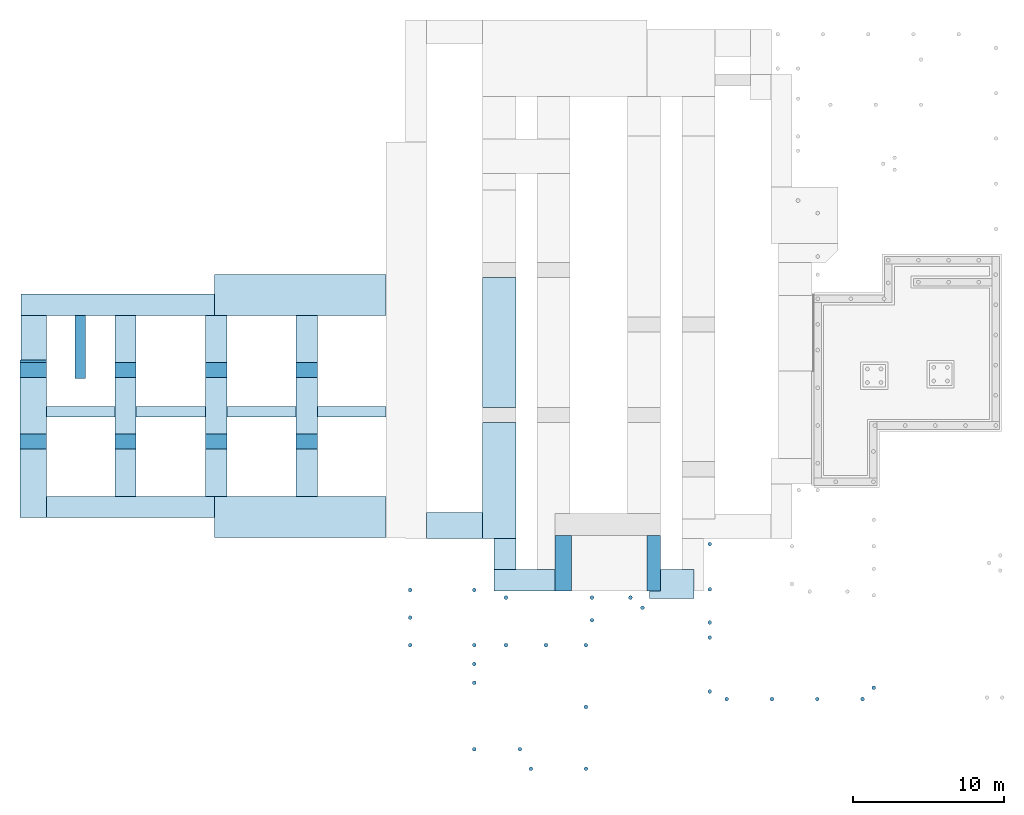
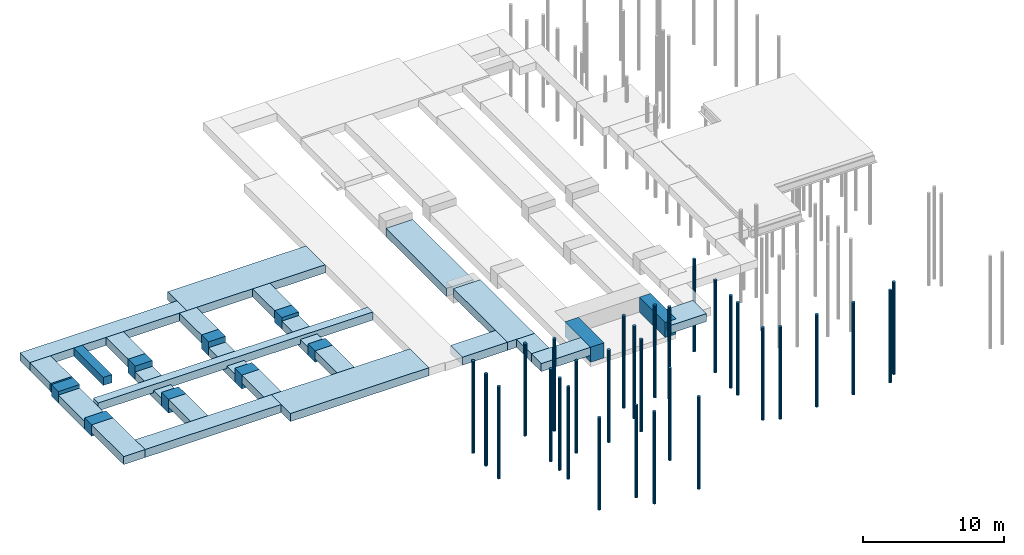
# One storey, part 1 of 4: 65 footings.
"""IFC4 building model written with IfcOpenShell, lengths in metres."""

from ifc_helpers import new_model, entity, si_unit, converted_unit, derived_unit, frame, frame_2d, origin, origin_with_axes, place, context, subcontext, project, spatial, polyline, rectangle, circle, extrude, clip, bounded_halfspace, material, element, save


model = new_model("IFC4")

# Units and contexts
model_context = context("Model", 3, precision=1e-05, world=origin())
body_context = subcontext(model_context, "Body", "Model", "MODEL_VIEW")
ifc_project = project(units=[si_unit("LENGTHUNIT", "METRE"), si_unit("AREAUNIT", "SQUARE_METRE"), si_unit("VOLUMEUNIT", "CUBIC_METRE"), si_unit("MASSUNIT", "GRAM", prefix="KILO"), converted_unit("PLANEANGLEUNIT", "DEGREE", entity("IfcPlaneAngleMeasure", 0.0174532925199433), si_unit("PLANEANGLEUNIT", "RADIAN"), dimensions=[0, 0, 0, 0, 0, 0, 0]), derived_unit("THERMALTRANSMITTANCEUNIT", [(si_unit("POWERUNIT", "WATT"), 1), (si_unit("THERMODYNAMICTEMPERATUREUNIT", "KELVIN"), -1), (si_unit("LENGTHUNIT", "METRE"), -2)]), derived_unit("VOLUMETRICFLOWRATEUNIT", [(si_unit("LENGTHUNIT", "METRE"), 3), (converted_unit("TIMEUNIT", "hour", entity("IfcTimeMeasure", 3600.0), si_unit("TIMEUNIT", "SECOND"), dimensions=[0, 0, 1, 0, 0, 0, 0]), -1), (si_unit("LENGTHUNIT", "METRE"), -1)])], contexts=[model_context])

# Site, building, storey
site_placement = place(None, origin())
site = spatial("IfcSite", under=ifc_project, at=site_placement, Name="3. ASŘ", CompositionType="ELEMENT")
building_placement = place(site_placement, origin())
building = spatial("IfcBuilding", under=site, at=building_placement, Name="Pavilon C", CompositionType="ELEMENT")
storey_placement = place(building_placement, frame((0.0, 0.0, -4.4)))
storey = spatial("IfcBuildingStorey", under=building, at=storey_placement, Name="Základy", CompositionType="ELEMENT", Elevation=-4.4)

# Footings
footing_1_placement = place(storey_placement, frame((34.45, -0.800000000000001, -0.6), z_axis=(0.0, 0.0, 1.0), x_axis=(0.0, -1.0, 0.0)))
element("IfcFooting", 1, at=footing_1_placement, inside=storey, PredefinedType="STRIP_FOOTING", context=body_context, shape_type="SweptSolid", body=[
    extrude(rectangle(XDim=1.10000000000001, YDim=1.3, at=frame_2d((0.550000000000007, 0.65), x_axis=(1.0, 0.0))), frame((0.0, 0.0, 0.0), z_axis=(1.0, 0.0, 0.0), x_axis=(0.0, 1.0, 0.0)), (0.0, 0.0, 1.0), 3.65),
])
footing_2_placement = place(storey_placement, frame((30.4, -0.970000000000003, 0.0), z_axis=(0.0, 0.0, 1.0), x_axis=(0.0, -1.0, 0.0)))
element("IfcFooting", 2, at=footing_2_placement, inside=storey, PredefinedType="STRIP_FOOTING", context=body_context, shape_type="SweptSolid", body=[
    extrude(rectangle(XDim=1.45, YDim=0.7, at=frame_2d((0.725, 0.35), x_axis=(1.0, 0.0))), frame((0.0, 0.0, 0.0), z_axis=(1.0, 0.0, 0.0), x_axis=(0.0, 1.0, 0.0)), (0.0, 0.0, 1.0), 2.08),
])
footing_3_placement = place(storey_placement, frame((30.4, -4.45, 0.0)))
element("IfcFooting", 3, at=footing_3_placement, inside=storey, PredefinedType="STRIP_FOOTING", context=body_context, shape_type="SweptSolid", body=[
    extrude(rectangle(XDim=1.4, YDim=0.7, at=frame_2d((0.7, 0.35), x_axis=(1.0, 0.0))), frame((0.0, 0.0, 0.0), z_axis=(1.0, 0.0, 0.0), x_axis=(0.0, 1.0, 0.0)), (0.0, 0.0, 1.0), 4.04999999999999),
])
footing_4_placement = place(storey_placement, frame((25.95, -0.970000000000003, 0.0)))
element("IfcFooting", 4, at=footing_4_placement, inside=storey, PredefinedType="STRIP_FOOTING", context=body_context, shape_type="SweptSolid", body=[
    extrude(rectangle(XDim=1.695, YDim=0.7, at=frame_2d((0.8475, 0.35), x_axis=(1.0, 0.0))), frame((0.0, 0.0, 0.0), z_axis=(1.0, 0.0, 0.0), x_axis=(0.0, 1.0, 0.0)), (0.0, 0.0, 1.0), 3.70000000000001),
])
footing_5_placement = place(storey_placement, frame((40.7, -4.95000000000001, 0.0), z_axis=(0.0, 0.0, 1.0), x_axis=(1.0, 9.24909866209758e-16, 0.0)))
element("IfcFooting", 5, at=footing_5_placement, inside=storey, PredefinedType="STRIP_FOOTING", context=body_context, shape_type="SweptSolid", body=[
    extrude(rectangle(XDim=1.9, YDim=0.7, at=frame_2d((0.95, 0.35), x_axis=(1.0, 0.0))), frame((0.0, 0.0, 0.0), z_axis=(1.0, 0.0, 0.0), x_axis=(0.0, 1.0, 0.0)), (0.0, 0.0, 1.0), 2.95),
])
footing_6_placement = place(storey_placement, frame((41.45, -4.45, -0.6), z_axis=(0.0, 0.0, 1.0), x_axis=(0.0, 1.0, 0.0)))
element("IfcFooting", 6, at=footing_6_placement, inside=storey, PredefinedType="STRIP_FOOTING", context=body_context, shape_type="SweptSolid", body=[
    extrude(rectangle(XDim=0.9, YDim=1.3, at=frame_2d((0.45, 0.65), x_axis=(1.0, 0.0))), frame((0.0, 0.0, 0.0), z_axis=(1.0, 0.0, 0.0), x_axis=(0.0, 1.0, 0.0)), (0.0, 0.0, 1.0), 3.65),
])
footing_7_placement = place(storey_placement, frame((31.8498372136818, 7.7, -0.6), z_axis=(0.0, 0.0, 1.0), x_axis=(0.0, 1.0, 0.0)))
element("IfcFooting", 7, at=footing_7_placement, inside=storey, PredefinedType="STRIP_FOOTING", context=body_context, shape_type="SweptSolid", body=[
    extrude(rectangle(XDim=2.2, YDim=0.7, at=frame_2d((1.1, 0.35), x_axis=(1.0, 0.0))), frame((0.0, 0.0, 0.0), z_axis=(1.0, 0.0, 0.0), x_axis=(0.0, 1.0, 0.0)), (0.0, 0.0, 1.0), 8.6),
])
footing_8_placement = place(storey_placement, frame((0.750000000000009, 0.400000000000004, 0.0), z_axis=(0.0, 0.0, 1.0), x_axis=(1.0, -2.60001288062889e-16, 0.0)))
element("IfcFooting", 8, at=footing_8_placement, inside=storey, PredefinedType="STRIP_FOOTING", context=body_context, shape_type="SweptSolid", body=[
    extrude(rectangle(XDim=1.4, YDim=0.7, at=frame_2d((0.699999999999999, 0.35), x_axis=(1.0, 0.0))), frame((0.0, 0.0, 0.0), z_axis=(1.0, 0.0, 0.0), x_axis=(0.0, 1.0, 0.0)), (0.0, 0.0, 1.0), 11.15),
])
footing_9_placement = place(storey_placement, frame((12.7, 1.8, 0.0), z_axis=(0.0, 0.0, 1.0), x_axis=(5.80219905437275e-16, 1.0, 0.0)))
element("IfcFooting", 9, at=footing_9_placement, inside=storey, PredefinedType="STRIP_FOOTING", context=body_context, shape_type="SweptSolid", body=[
    extrude(rectangle(XDim=1.4, YDim=0.7, at=frame_2d((0.699999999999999, 0.35), x_axis=(1.0, 0.0))), frame((0.0, 0.0, 0.0), z_axis=(1.0, 0.0, 0.0), x_axis=(0.0, 1.0, 0.0)), (0.0, 0.0, 1.0), 3.135),
])
footing_10_placement = place(storey_placement, frame((18.7, 1.8, 0.0), z_axis=(0.0, 0.0, 1.0), x_axis=(1.16043981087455e-15, 1.0, 0.0)))
element("IfcFooting", 10, at=footing_10_placement, inside=storey, PredefinedType="STRIP_FOOTING", context=body_context, shape_type="SweptSolid", body=[
    extrude(rectangle(XDim=1.4, YDim=0.7, at=frame_2d((0.699999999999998, 0.35), x_axis=(1.0, 0.0))), frame((0.0, 0.0, 0.0), z_axis=(1.0, 0.0, 0.0), x_axis=(0.0, 1.0, 0.0)), (0.0, 0.0, 1.0), 3.135),
])
for number, where, z_axis, x_axis in (
    (11, (17.3, 13.8, 0.0), (0.0, 0.0, 1.0), (0.0, -1.0, 0.0)),
    (12, (11.3, 13.8, 0.0), (0.0, 0.0, 1.0), (0.0, -1.0, 0.0)),
):
    element("IfcFooting", number, at=place(storey_placement, frame(where, z_axis=z_axis, x_axis=x_axis)), inside=storey, PredefinedType="STRIP_FOOTING", context=body_context, shape_type="SweptSolid", body=[
        extrude(rectangle(XDim=1.4, YDim=0.7, at=frame_2d((0.7, 0.35), x_axis=(1.0, 0.0))), frame((0.0, 0.0, 0.0), z_axis=(1.0, 0.0, 0.0), x_axis=(0.0, 1.0, 0.0)), (0.0, 0.0, 1.0), 3.125),
    ])
footing_11_placement = place(storey_placement, frame((11.9, 15.2, 0.0), z_axis=(0.0, 0.0, 1.0), x_axis=(-1.0, 4.24666786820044e-16, 0.0)))
element("IfcFooting", 13, at=footing_11_placement, inside=storey, PredefinedType="STRIP_FOOTING", context=body_context, shape_type="SweptSolid", body=[
    extrude(rectangle(XDim=1.4, YDim=0.7, at=frame_2d((0.700000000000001, 0.35), x_axis=(1.0, 0.0))), frame((0.0, 0.0, 0.0), z_axis=(1.0, 0.0, 0.0), x_axis=(0.0, 1.0, 0.0)), (0.0, 0.0, 1.0), 12.85),
])
for number, where, z_axis, x_axis in (
    (14, (11.9, -0.905000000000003, 0.0), (0.0, 0.0, 1.0), (1.0, -3.00626278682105e-16, 0.0)),
    (15, (11.9, 13.8, 0.0), (0.0, 0.0, 1.0), (1.0, -3.20668030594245e-16, 0.0)),
):
    element("IfcFooting", number, at=place(storey_placement, frame(where, z_axis=z_axis, x_axis=x_axis)), inside=storey, PredefinedType="STRIP_FOOTING", context=body_context, shape_type="SweptSolid", body=[
        extrude(rectangle(XDim=2.705, YDim=0.7, at=frame_2d((1.3525, 0.35), x_axis=(1.0, 0.0))), frame((0.0, 0.0, 0.0), z_axis=(1.0, 0.0, 0.0), x_axis=(0.0, 1.0, 0.0)), (0.0, 0.0, 1.0), 11.345),
    ])
footing_12_placement = place(storey_placement, frame((23.245, 7.74999999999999, 0.0), z_axis=(0.0, 0.0, 1.0), x_axis=(-1.0, 3.23447771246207e-16, 0.0)))
element("IfcFooting", 16, at=footing_12_placement, inside=storey, PredefinedType="STRIP_FOOTING", context=body_context, shape_type="Clipping", body=[
    clip(clip(clip(extrude(rectangle(XDim=0.7, YDim=0.7, at=frame_2d((0.35, 0.35), x_axis=(1.0, 0.0))), frame((0.0, 0.0, 0.0), z_axis=(1.0, 0.0, 0.0), x_axis=(0.0, 1.0, 0.0)), (0.0, 0.0, 1.0), 22.495), bounded_halfspace(frame((17.245, 0.35, 0.2), z_axis=(0.0, 0.0, 1.0), x_axis=(1.0, 3.23447771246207e-16, 0.0)), True, origin_with_axes(), polyline([(16.545, -1.05524835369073e-16), (17.945, 3.47302044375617e-16), (17.945, 0.7), (16.545, 0.7), (16.545, -1.05524835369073e-16)]))), bounded_halfspace(frame((11.245, 0.35, 0.2), z_axis=(0.0, 0.0, 1.0), x_axis=(1.0, 3.23447771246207e-16, 0.0)), True, origin_with_axes(), polyline([(10.545, -2.27222059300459e-16), (11.945, 2.25604820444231e-16), (11.945, 0.7), (10.545, 0.7), (10.545, -2.27222059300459e-16)]))), bounded_halfspace(frame((5.245, 0.35, 0.4), z_axis=(0.0, 0.0, 1.0), x_axis=(1.0, 3.23447771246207e-16, 0.0)), True, origin_with_axes(), polyline([(4.545, -3.48919283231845e-16), (5.945, 1.03907596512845e-16), (5.945, 0.7), (4.545, 0.7), (4.545, -3.48919283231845e-16)]))),
])
footing_13_placement = place(storey_placement, frame((17.3, 9.675, -0.3), z_axis=(0.0, 0.0, 1.0), x_axis=(0.0, -1.0, 0.0)))
element("IfcFooting", 17, at=footing_13_placement, inside=storey, PredefinedType="STRIP_FOOTING", context=body_context, shape_type="SweptSolid", body=[
    extrude(rectangle(XDim=1.4, YDim=0.7, at=frame_2d((0.7, 0.35), x_axis=(1.0, 0.0))), frame((0.0, 0.0, 0.0), z_axis=(1.0, 0.0, 0.0), x_axis=(0.0, 1.0, 0.0)), (0.0, 0.0, 1.0), 3.74),
])
for number, where, z_axis, x_axis in (
    (18, (17.3, 5.935, -0.3), (0.0, 0.0, 1.0), (0.0, -1.0, 0.0)),
    (19, (17.3, 10.675, -0.3), (0.0, 0.0, 1.0), (0.0, -1.0, 0.0)),
):
    element("IfcFooting", number, at=place(storey_placement, frame(where, z_axis=z_axis, x_axis=x_axis)), inside=storey, PredefinedType="STRIP_FOOTING", context=body_context, shape_type="SweptSolid", body=[
        extrude(rectangle(XDim=1.4, YDim=1.0, at=frame_2d((0.7, 0.5), x_axis=(1.0, 0.0))), frame((0.0, 0.0, 0.0), z_axis=(1.0, 0.0, 0.0), x_axis=(0.0, 1.0, 0.0)), (0.0, 0.0, 1.0), 1.0),
    ])
footing_14_placement = place(storey_placement, frame((11.3, 9.675, -0.5), z_axis=(0.0, 0.0, 1.0), x_axis=(0.0, -1.0, 0.0)))
element("IfcFooting", 20, at=footing_14_placement, inside=storey, PredefinedType="STRIP_FOOTING", context=body_context, shape_type="SweptSolid", body=[
    extrude(rectangle(XDim=1.4, YDim=0.7, at=frame_2d((0.7, 0.35), x_axis=(1.0, 0.0))), frame((0.0, 0.0, 0.0), z_axis=(1.0, 0.0, 0.0), x_axis=(0.0, 1.0, 0.0)), (0.0, 0.0, 1.0), 3.74),
])
for number, where, z_axis, x_axis in (
    (21, (11.3, 5.935, -0.5), (0.0, 0.0, 1.0), (0.0, -1.0, 0.0)),
    (22, (11.3, 10.675, -0.5), (0.0, 0.0, 1.0), (0.0, -1.0, 0.0)),
):
    element("IfcFooting", number, at=place(storey_placement, frame(where, z_axis=z_axis, x_axis=x_axis)), inside=storey, PredefinedType="STRIP_FOOTING", context=body_context, shape_type="SweptSolid", body=[
        extrude(rectangle(XDim=1.4, YDim=1.2, at=frame_2d((0.7, 0.6), x_axis=(1.0, 0.0))), frame((0.0, 0.0, 0.0), z_axis=(1.0, 0.0, 0.0), x_axis=(0.0, 1.0, 0.0)), (0.0, 0.0, 1.0), 1.0),
    ])
footing_15_placement = place(storey_placement, frame((5.3, 9.675, -0.5), z_axis=(0.0, 0.0, 1.0), x_axis=(0.0, -1.0, 0.0)))
element("IfcFooting", 23, at=footing_15_placement, inside=storey, PredefinedType="STRIP_FOOTING", context=body_context, shape_type="SweptSolid", body=[
    extrude(rectangle(XDim=1.4, YDim=0.7, at=frame_2d((0.7, 0.35), x_axis=(1.0, 0.0))), frame((0.0, 0.0, 0.0), z_axis=(1.0, 0.0, 0.0), x_axis=(0.0, 1.0, 0.0)), (0.0, 0.0, 1.0), 3.74),
])
footing_16_placement = place(storey_placement, frame((6.7, 1.8, 0.0), z_axis=(0.0, 0.0, 1.0), x_axis=(2.90109952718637e-16, 1.0, 0.0)))
element("IfcFooting", 24, at=footing_16_placement, inside=storey, PredefinedType="STRIP_FOOTING", context=body_context, shape_type="SweptSolid", body=[
    extrude(rectangle(XDim=1.4, YDim=0.7, at=frame_2d((0.699999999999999, 0.35), x_axis=(1.0, 0.0))), frame((0.0, 0.0, 0.0), z_axis=(1.0, 0.0, 0.0), x_axis=(0.0, 1.0, 0.0)), (0.0, 0.0, 1.0), 3.135),
])
for number, where, z_axis, x_axis in (
    (25, (5.3, 5.935, -0.5), (0.0, 0.0, 1.0), (0.0, -1.0, 0.0)),
    (26, (5.3, 10.675, -0.5), (0.0, 0.0, 1.0), (0.0, -1.0, 0.0)),
):
    element("IfcFooting", number, at=place(storey_placement, frame(where, z_axis=z_axis, x_axis=x_axis)), inside=storey, PredefinedType="STRIP_FOOTING", context=body_context, shape_type="SweptSolid", body=[
        extrude(rectangle(XDim=1.4, YDim=1.2, at=frame_2d((0.7, 0.6), x_axis=(1.0, 0.0))), frame((0.0, 0.0, 0.0), z_axis=(1.0, 0.0, 0.0), x_axis=(0.0, 1.0, 0.0)), (0.0, 0.0, 1.0), 1.0),
    ])
footing_17_placement = place(storey_placement, frame((5.3, 13.8, 0.0), z_axis=(0.0, 0.0, 1.0), x_axis=(0.0, -1.0, 0.0)))
element("IfcFooting", 27, at=footing_17_placement, inside=storey, PredefinedType="STRIP_FOOTING", context=body_context, shape_type="SweptSolid", body=[
    extrude(rectangle(XDim=1.4, YDim=0.7, at=frame_2d((0.7, 0.35), x_axis=(1.0, 0.0))), frame((0.0, 0.0, 0.0), z_axis=(1.0, 0.0, 0.0), x_axis=(0.0, 1.0, 0.0)), (0.0, 0.0, 1.0), 3.125),
])
footing_18_placement = place(storey_placement, frame((-0.999999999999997, 9.675, -0.3), z_axis=(0.0, 0.0, 1.0), x_axis=(-1.51987750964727e-16, -1.0, 0.0)))
element("IfcFooting", 28, at=footing_18_placement, inside=storey, PredefinedType="STRIP_FOOTING", context=body_context, shape_type="SweptSolid", body=[
    extrude(rectangle(XDim=1.75000000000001, YDim=0.7, at=frame_2d((0.875000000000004, 0.35), x_axis=(1.0, 0.0))), frame((0.0, 0.0, 0.0), z_axis=(1.0, 0.0, 0.0), x_axis=(0.0, 1.0, 0.0)), (0.0, 0.0, 1.0), 3.74),
])
footing_19_placement = place(storey_placement, frame((-0.999999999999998, 4.935, 0.0), z_axis=(0.0, 0.0, 1.0), x_axis=(-1.50412574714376e-16, -1.0, 0.0)))
element("IfcFooting", 29, at=footing_19_placement, inside=storey, PredefinedType="STRIP_FOOTING", context=body_context, shape_type="SweptSolid", body=[
    extrude(rectangle(XDim=1.75000000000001, YDim=0.7, at=frame_2d((0.875000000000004, 0.35), x_axis=(1.0, 0.0))), frame((0.0, 0.0, 0.0), z_axis=(1.0, 0.0, 0.0), x_axis=(0.0, 1.0, 0.0)), (0.0, 0.0, 1.0), 4.535),
])
for number, where, z_axis, x_axis in (
    (30, (-0.999999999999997, 5.935, -0.3), (0.0, 0.0, 1.0), (-1.13686837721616e-16, -1.0, 0.0)),
    (31, (-0.999999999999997, 10.675, -0.3), (0.0, 0.0, 1.0), (-1.13686837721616e-16, -1.0, 0.0)),
):
    element("IfcFooting", number, at=place(storey_placement, frame(where, z_axis=z_axis, x_axis=x_axis)), inside=storey, PredefinedType="STRIP_FOOTING", context=body_context, shape_type="SweptSolid", body=[
        extrude(rectangle(XDim=1.75000000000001, YDim=1.0, at=frame_2d((0.875000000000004, 0.5), x_axis=(1.0, 0.0))), frame((0.0, 0.0, 0.0), z_axis=(1.0, 0.0, 0.0), x_axis=(0.0, 1.0, 0.0)), (0.0, 0.0, 1.0), 1.0),
    ])
footing_20_placement = place(storey_placement, frame((-0.999999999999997, 10.825, 0.0), z_axis=(0.0, 0.0, 1.0), x_axis=(0.0, -1.0, 0.0)))
element("IfcFooting", 32, at=footing_20_placement, inside=storey, PredefinedType="STRIP_FOOTING", context=body_context, shape_type="SweptSolid", body=[
    extrude(rectangle(XDim=1.75000000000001, YDim=0.7, at=frame_2d((0.875000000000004, 0.35), x_axis=(1.0, 0.0))), frame((0.0, 0.0, 0.0), z_axis=(1.0, 0.0, 0.0), x_axis=(0.0, 1.0, 0.0)), (0.0, 0.0, 1.0), 0.15),
])
footing_21_placement = place(storey_placement, frame((-0.949999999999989, 13.8, 0.0), z_axis=(0.0, 0.0, 1.0), x_axis=(1.14642189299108e-16, -1.0, 0.0)))
element("IfcFooting", 33, at=footing_21_placement, inside=storey, PredefinedType="STRIP_FOOTING", context=body_context, shape_type="SweptSolid", body=[
    extrude(rectangle(XDim=1.7, YDim=0.7, at=frame_2d((0.85, 0.35), x_axis=(1.0, 0.0))), frame((0.0, 0.0, 0.0), z_axis=(1.0, 0.0, 0.0), x_axis=(0.0, 1.0, 0.0)), (0.0, 0.0, 1.0), 2.975),
])
footing_22_placement = place(storey_placement, frame((3.35, 9.6, 0.0), z_axis=(0.0, 0.0, 1.0), x_axis=(0.0, 1.0, 0.0)))
element("IfcFooting", 34, at=footing_22_placement, inside=storey, PredefinedType="STRIP_FOOTING", context=body_context, shape_type="SweptSolid", body=[
    extrude(rectangle(XDim=0.7, YDim=0.7, at=frame_2d((0.35, 0.35), x_axis=(1.0, 0.0))), frame((0.0, 0.0, 0.0), z_axis=(1.0, 0.0, 0.0), x_axis=(0.0, 1.0, 0.0)), (0.0, 0.0, 1.0), 4.2),
])
footing_23_placement = place(storey_placement, frame((31.85, -0.970000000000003, 0.0), z_axis=(0.0, 0.0, 1.0), x_axis=(0.0, 1.0, 0.0)))
element("IfcFooting", 35, at=footing_23_placement, inside=storey, PredefinedType="STRIP_FOOTING", context=body_context, shape_type="SweptSolid", body=[
    extrude(rectangle(XDim=2.2, YDim=0.7, at=frame_2d((1.1, 0.35), x_axis=(1.0, 0.0))), frame((0.0, 0.0, 0.0), z_axis=(1.0, 0.0, 0.0), x_axis=(0.0, 1.0, 0.0)), (0.0, 0.0, 1.0), 7.67),
])
ifc_material_1 = material(Name="ZELEZOBETONOVÁ KCE")
footing_24_placement = place(storey_placement, frame((44.5805159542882, -1.47948404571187, -5.1)))
element("IfcFooting", 36, at=footing_24_placement, inside=storey, material=ifc_material_1, Name="MIKROPILOTA MP1", PredefinedType="PAD_FOOTING", context=body_context, shape_type="SweptSolid", body=[
    extrude(circle(Radius=0.124999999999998, at=frame_2d((0.124999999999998, 0.124999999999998), x_axis=(1.0, 0.0))), frame((-0.000515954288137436, -0.000515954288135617, 0.0), z_axis=(0.0, 0.0, 1.0), x_axis=(1.0, 0.0, 0.0)), (0.0, 0.0, 1.0), 8.0),
])
ifc_material_2 = material(Name="ZELEZOBETONOVÁ KCE")
footing_25_placement = place(storey_placement, frame((44.5805159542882, -4.47948404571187, -5.1)))
element("IfcFooting", 37, at=footing_25_placement, inside=storey, material=ifc_material_2, Name="MIKROPILOTA MP1", PredefinedType="PAD_FOOTING", context=body_context, shape_type="SweptSolid", body=[
    extrude(circle(Radius=0.124999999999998, at=frame_2d((0.124999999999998, 0.124999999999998), x_axis=(1.0, 0.0))), frame((-0.000515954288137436, -0.000515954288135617, 0.0), z_axis=(0.0, 0.0, 1.0), x_axis=(1.0, 0.0, 0.0)), (0.0, 0.0, 1.0), 8.0),
])
ifc_material_3 = material(Name="ZELEZOBETONOVÁ KCE")
footing_26_placement = place(storey_placement, frame((44.5805159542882, -6.67448404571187, -5.1)))
element("IfcFooting", 38, at=footing_26_placement, inside=storey, material=ifc_material_3, Name="MIKROPILOTA MP1", PredefinedType="PAD_FOOTING", context=body_context, shape_type="SweptSolid", body=[
    extrude(circle(Radius=0.124999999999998, at=frame_2d((0.124999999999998, 0.124999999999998), x_axis=(1.0, 0.0))), frame((-0.000515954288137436, -0.000515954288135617, 0.0), z_axis=(0.0, 0.0, 1.0), x_axis=(1.0, 0.0, 0.0)), (0.0, 0.0, 1.0), 8.0),
])
ifc_material_4 = material(Name="ZELEZOBETONOVÁ KCE")
footing_27_placement = place(storey_placement, frame((44.5805159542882, -7.67448404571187, -5.1)))
element("IfcFooting", 39, at=footing_27_placement, inside=storey, material=ifc_material_4, Name="MIKROPILOTA MP1", PredefinedType="PAD_FOOTING", context=body_context, shape_type="SweptSolid", body=[
    extrude(circle(Radius=0.124999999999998, at=frame_2d((0.124999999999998, 0.124999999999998), x_axis=(1.0, 0.0))), frame((-0.000515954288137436, -0.000515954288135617, 0.0), z_axis=(0.0, 0.0, 1.0), x_axis=(1.0, 0.0, 0.0)), (0.0, 0.0, 1.0), 8.0),
])
ifc_material_5 = material(Name="ZELEZOBETONOVÁ KCE")
footing_28_placement = place(storey_placement, frame((44.5805159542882, -11.2494840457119, -5.1)))
element("IfcFooting", 40, at=footing_28_placement, inside=storey, material=ifc_material_5, Name="MIKROPILOTA MP1", PredefinedType="PAD_FOOTING", context=body_context, shape_type="SweptSolid", body=[
    extrude(circle(Radius=0.124999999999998, at=frame_2d((0.124999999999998, 0.124999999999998), x_axis=(1.0, 0.0))), frame((-0.000515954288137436, -0.000515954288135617, 0.0), z_axis=(0.0, 0.0, 1.0), x_axis=(1.0, 0.0, 0.0)), (0.0, 0.0, 1.0), 8.0),
])
ifc_material_6 = material(Name="ZELEZOBETONOVÁ KCE")
footing_29_placement = place(storey_placement, frame((45.7005159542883, -11.7494840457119, -5.1)))
element("IfcFooting", 41, at=footing_29_placement, inside=storey, material=ifc_material_6, Name="MIKROPILOTA MP1", PredefinedType="PAD_FOOTING", context=body_context, shape_type="SweptSolid", body=[
    extrude(circle(Radius=0.124999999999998, at=frame_2d((0.124999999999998, 0.124999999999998), x_axis=(1.0, 0.0))), frame((-0.000515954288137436, -0.000515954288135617, 0.0), z_axis=(0.0, 0.0, 1.0), x_axis=(1.0, 0.0, 0.0)), (0.0, 0.0, 1.0), 8.0),
])
ifc_material_7 = material(Name="ZELEZOBETONOVÁ KCE")
footing_30_placement = place(storey_placement, frame((48.7005159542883, -11.7494840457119, -5.1)))
element("IfcFooting", 42, at=footing_30_placement, inside=storey, material=ifc_material_7, Name="MIKROPILOTA MP1", PredefinedType="PAD_FOOTING", context=body_context, shape_type="SweptSolid", body=[
    extrude(circle(Radius=0.124999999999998, at=frame_2d((0.124999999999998, 0.124999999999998), x_axis=(1.0, 0.0))), frame((-0.000515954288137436, -0.000515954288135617, 0.0), z_axis=(0.0, 0.0, 1.0), x_axis=(1.0, 0.0, 0.0)), (0.0, 0.0, 1.0), 8.0),
])
ifc_material_8 = material(Name="ZELEZOBETONOVÁ KCE")
footing_31_placement = place(storey_placement, frame((51.7005159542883, -11.7494840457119, -5.1)))
element("IfcFooting", 43, at=footing_31_placement, inside=storey, material=ifc_material_8, Name="MIKROPILOTA MP1", PredefinedType="PAD_FOOTING", context=body_context, shape_type="SweptSolid", body=[
    extrude(circle(Radius=0.124999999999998, at=frame_2d((0.124999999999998, 0.124999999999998), x_axis=(1.0, 0.0))), frame((-0.000515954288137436, -0.000515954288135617, 0.0), z_axis=(0.0, 0.0, 1.0), x_axis=(1.0, 0.0, 0.0)), (0.0, 0.0, 1.0), 8.0),
])
ifc_material_9 = material(Name="ZELEZOBETONOVÁ KCE")
footing_32_placement = place(storey_placement, frame((54.7005159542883, -11.7494840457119, -5.1)))
element("IfcFooting", 44, at=footing_32_placement, inside=storey, material=ifc_material_9, Name="MIKROPILOTA MP1", PredefinedType="PAD_FOOTING", context=body_context, shape_type="SweptSolid", body=[
    extrude(circle(Radius=0.124999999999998, at=frame_2d((0.124999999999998, 0.124999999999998), x_axis=(1.0, 0.0))), frame((-0.000515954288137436, -0.000515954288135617, 0.0), z_axis=(0.0, 0.0, 1.0), x_axis=(1.0, 0.0, 0.0)), (0.0, 0.0, 1.0), 8.0),
])
ifc_material_10 = material(Name="ZELEZOBETONOVÁ KCE")
footing_33_placement = place(storey_placement, frame((55.4505159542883, -10.9994840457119, -5.1)))
element("IfcFooting", 45, at=footing_33_placement, inside=storey, material=ifc_material_10, Name="MIKROPILOTA MP1", PredefinedType="PAD_FOOTING", context=body_context, shape_type="SweptSolid", body=[
    extrude(circle(Radius=0.124999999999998, at=frame_2d((0.124999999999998, 0.124999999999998), x_axis=(1.0, 0.0))), frame((-0.000515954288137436, -0.000515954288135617, 0.0), z_axis=(0.0, 0.0, 1.0), x_axis=(1.0, 0.0, 0.0)), (0.0, 0.0, 1.0), 8.0),
])
ifc_material_11 = material(Name="ZELEZOBETONOVÁ KCE")
footing_34_placement = place(storey_placement, frame((40.1205159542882, -5.69948404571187, -5.1)))
element("IfcFooting", 46, at=footing_34_placement, inside=storey, material=ifc_material_11, Name="MIKROPILOTA MP1", PredefinedType="PAD_FOOTING", context=body_context, shape_type="SweptSolid", body=[
    extrude(circle(Radius=0.124999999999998, at=frame_2d((0.124999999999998, 0.124999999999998), x_axis=(1.0, 0.0))), frame((-0.000515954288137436, -0.000515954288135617, 0.0), z_axis=(0.0, 0.0, 1.0), x_axis=(1.0, 0.0, 0.0)), (0.0, 0.0, 1.0), 8.0),
])
ifc_material_12 = material(Name="ZELEZOBETONOVÁ KCE")
footing_35_placement = place(storey_placement, frame((39.3255159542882, -5.02448404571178, -5.1)))
element("IfcFooting", 47, at=footing_35_placement, inside=storey, material=ifc_material_12, Name="MIKROPILOTA MP1", PredefinedType="PAD_FOOTING", context=body_context, shape_type="SweptSolid", body=[
    extrude(circle(Radius=0.124999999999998, at=frame_2d((0.124999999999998, 0.124999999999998), x_axis=(1.0, 0.0))), frame((-0.000515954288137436, -0.000515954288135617, 0.0), z_axis=(0.0, 0.0, 1.0), x_axis=(1.0, 0.0, 0.0)), (0.0, 0.0, 1.0), 8.0),
])
ifc_material_13 = material(Name="ZELEZOBETONOVÁ KCE")
footing_36_placement = place(storey_placement, frame((36.7755159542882, -5.02448404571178, -5.1)))
element("IfcFooting", 48, at=footing_36_placement, inside=storey, material=ifc_material_13, Name="MIKROPILOTA MP1", PredefinedType="PAD_FOOTING", context=body_context, shape_type="SweptSolid", body=[
    extrude(circle(Radius=0.124999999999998, at=frame_2d((0.124999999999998, 0.124999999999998), x_axis=(1.0, 0.0))), frame((-0.000515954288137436, -0.000515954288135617, 0.0), z_axis=(0.0, 0.0, 1.0), x_axis=(1.0, 0.0, 0.0)), (0.0, 0.0, 1.0), 8.0),
])
ifc_material_14 = material(Name="ZELEZOBETONOVÁ KCE")
footing_37_placement = place(storey_placement, frame((36.7755159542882, -6.52448404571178, -5.1)))
element("IfcFooting", 49, at=footing_37_placement, inside=storey, material=ifc_material_14, Name="MIKROPILOTA MP1", PredefinedType="PAD_FOOTING", context=body_context, shape_type="SweptSolid", body=[
    extrude(circle(Radius=0.124999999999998, at=frame_2d((0.124999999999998, 0.124999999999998), x_axis=(1.0, 0.0))), frame((-0.000515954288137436, -0.000515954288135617, 0.0), z_axis=(0.0, 0.0, 1.0), x_axis=(1.0, 0.0, 0.0)), (0.0, 0.0, 1.0), 8.0),
])
ifc_material_15 = material(Name="ZELEZOBETONOVÁ KCE")
footing_38_placement = place(storey_placement, frame((36.3755159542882, -8.17448404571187, -5.1)))
element("IfcFooting", 50, at=footing_38_placement, inside=storey, material=ifc_material_15, Name="MIKROPILOTA MP1", PredefinedType="PAD_FOOTING", context=body_context, shape_type="SweptSolid", body=[
    extrude(circle(Radius=0.124999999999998, at=frame_2d((0.124999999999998, 0.124999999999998), x_axis=(1.0, 0.0))), frame((-0.000515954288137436, -0.000515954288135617, 0.0), z_axis=(0.0, 0.0, 1.0), x_axis=(1.0, 0.0, 0.0)), (0.0, 0.0, 1.0), 8.0),
])
ifc_material_16 = material(Name="ZELEZOBETONOVÁ KCE")
footing_39_placement = place(storey_placement, frame((33.7255159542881, -8.17448404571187, -5.1)))
element("IfcFooting", 51, at=footing_39_placement, inside=storey, material=ifc_material_16, Name="MIKROPILOTA MP1", PredefinedType="PAD_FOOTING", context=body_context, shape_type="SweptSolid", body=[
    extrude(circle(Radius=0.124999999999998, at=frame_2d((0.124999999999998, 0.124999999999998), x_axis=(1.0, 0.0))), frame((-0.000515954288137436, -0.000515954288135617, 0.0), z_axis=(0.0, 0.0, 1.0), x_axis=(1.0, 0.0, 0.0)), (0.0, 0.0, 1.0), 8.0),
])
ifc_material_17 = material(Name="ZELEZOBETONOVÁ KCE")
footing_40_placement = place(storey_placement, frame((36.3755159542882, -12.2719840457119, -5.1)))
element("IfcFooting", 52, at=footing_40_placement, inside=storey, material=ifc_material_17, Name="MIKROPILOTA MP1", PredefinedType="PAD_FOOTING", context=body_context, shape_type="SweptSolid", body=[
    extrude(circle(Radius=0.124999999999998, at=frame_2d((0.124999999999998, 0.124999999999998), x_axis=(1.0, 0.0))), frame((-0.000515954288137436, -0.000515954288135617, 0.0), z_axis=(0.0, 0.0, 1.0), x_axis=(1.0, 0.0, 0.0)), (0.0, 0.0, 1.0), 8.0),
])
ifc_material_18 = material(Name="ZELEZOBETONOVÁ KCE")
footing_41_placement = place(storey_placement, frame((36.3755159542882, -16.3694840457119, -5.1)))
element("IfcFooting", 53, at=footing_41_placement, inside=storey, material=ifc_material_18, Name="MIKROPILOTA MP1", PredefinedType="PAD_FOOTING", context=body_context, shape_type="SweptSolid", body=[
    extrude(circle(Radius=0.124999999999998, at=frame_2d((0.124999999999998, 0.124999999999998), x_axis=(1.0, 0.0))), frame((-0.000515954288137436, -0.000515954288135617, 0.0), z_axis=(0.0, 0.0, 1.0), x_axis=(1.0, 0.0, 0.0)), (0.0, 0.0, 1.0), 8.0),
])
ifc_material_19 = material(Name="ZELEZOBETONOVÁ KCE")
footing_42_placement = place(storey_placement, frame((32.7305159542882, -16.3694840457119, -5.1)))
element("IfcFooting", 54, at=footing_42_placement, inside=storey, material=ifc_material_19, Name="MIKROPILOTA MP1", PredefinedType="PAD_FOOTING", context=body_context, shape_type="SweptSolid", body=[
    extrude(circle(Radius=0.124999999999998, at=frame_2d((0.124999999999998, 0.124999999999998), x_axis=(1.0, 0.0))), frame((-0.000515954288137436, -0.000515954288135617, 0.0), z_axis=(0.0, 0.0, 1.0), x_axis=(1.0, 0.0, 0.0)), (0.0, 0.0, 1.0), 8.0),
])
ifc_material_20 = material(Name="ZELEZOBETONOVÁ KCE")
footing_43_placement = place(storey_placement, frame((32.0005159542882, -15.0694840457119, -5.1)))
element("IfcFooting", 55, at=footing_43_placement, inside=storey, material=ifc_material_20, Name="MIKROPILOTA MP1", PredefinedType="PAD_FOOTING", context=body_context, shape_type="SweptSolid", body=[
    extrude(circle(Radius=0.124999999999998, at=frame_2d((0.124999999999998, 0.124999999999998), x_axis=(1.0, 0.0))), frame((-0.000515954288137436, -0.000515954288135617, 0.0), z_axis=(0.0, 0.0, 1.0), x_axis=(1.0, 0.0, 0.0)), (0.0, 0.0, 1.0), 8.0),
])
ifc_material_21 = material(Name="ZELEZOBETONOVÁ KCE")
footing_44_placement = place(storey_placement, frame((28.9755159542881, -15.0694840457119, -5.1)))
element("IfcFooting", 56, at=footing_44_placement, inside=storey, material=ifc_material_21, Name="MIKROPILOTA MP1", PredefinedType="PAD_FOOTING", context=body_context, shape_type="SweptSolid", body=[
    extrude(circle(Radius=0.124999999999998, at=frame_2d((0.124999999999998, 0.124999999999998), x_axis=(1.0, 0.0))), frame((-0.000515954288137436, -0.000515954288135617, 0.0), z_axis=(0.0, 0.0, 1.0), x_axis=(1.0, 0.0, 0.0)), (0.0, 0.0, 1.0), 8.0),
])
ifc_material_22 = material(Name="ZELEZOBETONOVÁ KCE")
footing_45_placement = place(storey_placement, frame((28.9755159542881, -10.6744840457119, -5.1)))
element("IfcFooting", 57, at=footing_45_placement, inside=storey, material=ifc_material_22, Name="MIKROPILOTA MP1", PredefinedType="PAD_FOOTING", context=body_context, shape_type="SweptSolid", body=[
    extrude(circle(Radius=0.124999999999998, at=frame_2d((0.124999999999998, 0.124999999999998), x_axis=(1.0, 0.0))), frame((-0.000515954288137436, -0.000515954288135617, 0.0), z_axis=(0.0, 0.0, 1.0), x_axis=(1.0, 0.0, 0.0)), (0.0, 0.0, 1.0), 8.0),
])
ifc_material_23 = material(Name="ZELEZOBETONOVÁ KCE")
footing_46_placement = place(storey_placement, frame((28.9755159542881, -9.42448404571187, -5.1)))
element("IfcFooting", 58, at=footing_46_placement, inside=storey, material=ifc_material_23, Name="MIKROPILOTA MP1", PredefinedType="PAD_FOOTING", context=body_context, shape_type="SweptSolid", body=[
    extrude(circle(Radius=0.124999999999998, at=frame_2d((0.124999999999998, 0.124999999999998), x_axis=(1.0, 0.0))), frame((-0.000515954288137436, -0.000515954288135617, 0.0), z_axis=(0.0, 0.0, 1.0), x_axis=(1.0, 0.0, 0.0)), (0.0, 0.0, 1.0), 8.0),
])
ifc_material_24 = material(Name="ZELEZOBETONOVÁ KCE")
footing_47_placement = place(storey_placement, frame((28.9755159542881, -8.17448404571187, -5.1)))
element("IfcFooting", 59, at=footing_47_placement, inside=storey, material=ifc_material_24, Name="MIKROPILOTA MP1", PredefinedType="PAD_FOOTING", context=body_context, shape_type="SweptSolid", body=[
    extrude(circle(Radius=0.124999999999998, at=frame_2d((0.124999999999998, 0.124999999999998), x_axis=(1.0, 0.0))), frame((-0.000515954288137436, -0.000515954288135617, 0.0), z_axis=(0.0, 0.0, 1.0), x_axis=(1.0, 0.0, 0.0)), (0.0, 0.0, 1.0), 8.0),
])
ifc_material_25 = material(Name="ZELEZOBETONOVÁ KCE")
footing_48_placement = place(storey_placement, frame((31.0755159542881, -8.17448404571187, -5.1)))
element("IfcFooting", 60, at=footing_48_placement, inside=storey, material=ifc_material_25, Name="MIKROPILOTA MP1", PredefinedType="PAD_FOOTING", context=body_context, shape_type="SweptSolid", body=[
    extrude(circle(Radius=0.124999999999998, at=frame_2d((0.124999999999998, 0.124999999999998), x_axis=(1.0, 0.0))), frame((-0.000515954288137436, -0.000515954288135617, 0.0), z_axis=(0.0, 0.0, 1.0), x_axis=(1.0, 0.0, 0.0)), (0.0, 0.0, 1.0), 8.0),
])
ifc_material_26 = material(Name="ZELEZOBETONOVÁ KCE")
footing_49_placement = place(storey_placement, frame((31.0755159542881, -5.02448404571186, -5.1)))
element("IfcFooting", 61, at=footing_49_placement, inside=storey, material=ifc_material_26, Name="MIKROPILOTA MP1", PredefinedType="PAD_FOOTING", context=body_context, shape_type="SweptSolid", body=[
    extrude(circle(Radius=0.124999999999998, at=frame_2d((0.124999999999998, 0.124999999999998), x_axis=(1.0, 0.0))), frame((-0.000515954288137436, -0.000515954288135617, 0.0), z_axis=(0.0, 0.0, 1.0), x_axis=(1.0, 0.0, 0.0)), (0.0, 0.0, 1.0), 8.0),
])
ifc_material_27 = material(Name="ZELEZOBETONOVÁ KCE")
footing_50_placement = place(storey_placement, frame((28.9755159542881, -4.52448404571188, -5.1)))
element("IfcFooting", 62, at=footing_50_placement, inside=storey, material=ifc_material_27, Name="MIKROPILOTA MP1", PredefinedType="PAD_FOOTING", context=body_context, shape_type="SweptSolid", body=[
    extrude(circle(Radius=0.124999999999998, at=frame_2d((0.124999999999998, 0.124999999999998), x_axis=(1.0, 0.0))), frame((-0.000515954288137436, -0.000515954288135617, 0.0), z_axis=(0.0, 0.0, 1.0), x_axis=(1.0, 0.0, 0.0)), (0.0, 0.0, 1.0), 8.0),
])
ifc_material_28 = material(Name="ZELEZOBETONOVÁ KCE")
footing_51_placement = place(storey_placement, frame((24.7255159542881, -4.52448404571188, -5.1)))
element("IfcFooting", 63, at=footing_51_placement, inside=storey, material=ifc_material_28, Name="MIKROPILOTA MP1", PredefinedType="PAD_FOOTING", context=body_context, shape_type="SweptSolid", body=[
    extrude(circle(Radius=0.124999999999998, at=frame_2d((0.124999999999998, 0.124999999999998), x_axis=(1.0, 0.0))), frame((-0.000515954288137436, -0.000515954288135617, 0.0), z_axis=(0.0, 0.0, 1.0), x_axis=(1.0, 0.0, 0.0)), (0.0, 0.0, 1.0), 8.0),
])
ifc_material_29 = material(Name="ZELEZOBETONOVÁ KCE")
footing_52_placement = place(storey_placement, frame((24.7255159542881, -6.34948404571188, -5.1)))
element("IfcFooting", 64, at=footing_52_placement, inside=storey, material=ifc_material_29, Name="MIKROPILOTA MP1", PredefinedType="PAD_FOOTING", context=body_context, shape_type="SweptSolid", body=[
    extrude(circle(Radius=0.124999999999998, at=frame_2d((0.124999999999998, 0.124999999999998), x_axis=(1.0, 0.0))), frame((-0.000515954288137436, -0.000515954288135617, 0.0), z_axis=(0.0, 0.0, 1.0), x_axis=(1.0, 0.0, 0.0)), (0.0, 0.0, 1.0), 8.0),
])
ifc_material_30 = material(Name="ZELEZOBETONOVÁ KCE")
footing_53_placement = place(storey_placement, frame((24.7255159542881, -8.17448404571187, -5.1)))
element("IfcFooting", 65, at=footing_53_placement, inside=storey, material=ifc_material_30, Name="MIKROPILOTA MP1", PredefinedType="PAD_FOOTING", context=body_context, shape_type="SweptSolid", body=[
    extrude(circle(Radius=0.124999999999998, at=frame_2d((0.124999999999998, 0.124999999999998), x_axis=(1.0, 0.0))), frame((-0.000515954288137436, -0.000515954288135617, 0.0), z_axis=(0.0, 0.0, 1.0), x_axis=(1.0, 0.0, 0.0)), (0.0, 0.0, 1.0), 8.0),
])

save(model, "model.ifc")
